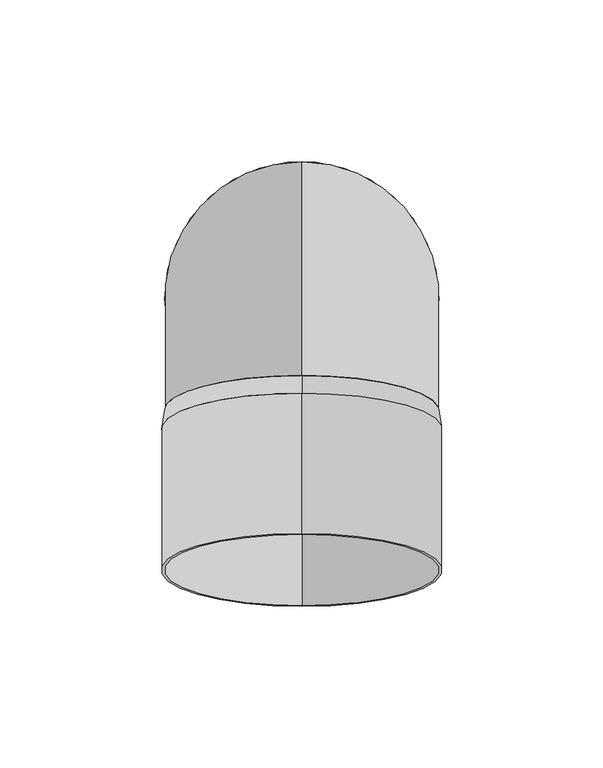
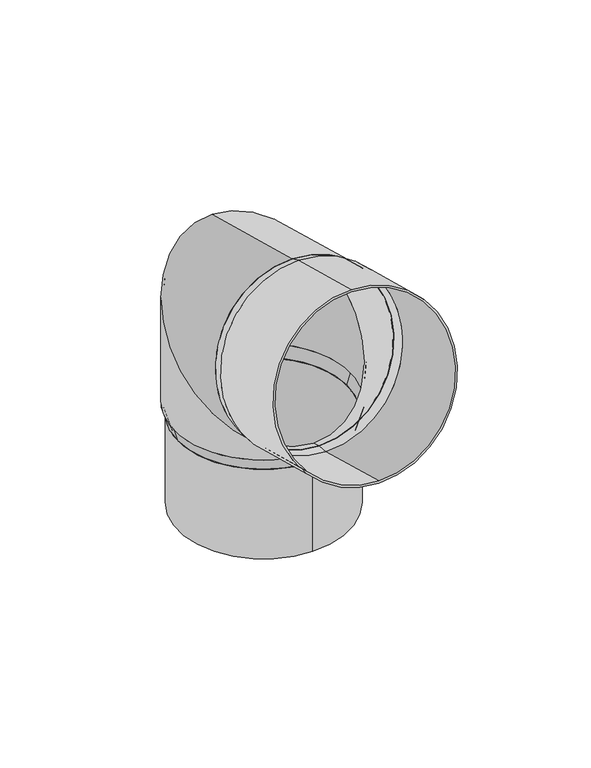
"""IFC4 building model written with IfcOpenShell, lengths in millimetres: proxy geometry, GROVIK_Downpipe_Knee : N85_75°_Up."""

from ifc_helpers import new_model, si_unit, point, frame, origin, origin_with_axes, origin_2d, place, context, project, spatial, polyline, circle_curve, ellipse_curve, trimmed, segment, composite_curve, outline, extrude, source, transform, mapped, element, save
from ifc_brep_helpers import plane_surface, cylinder_surface, revolved_surface, advanced_brep


def generic_models_094d9b74(model_context):
    return source(origin(), model_context, "Body", "SolidModel", [
        extrude(outline(composite_curve([segment(trimmed(circle_curve(origin_2d(), 40.7), [point((0.0, 40.7))], [point((0.0, -40.7))], False, "CARTESIAN"), True, "CONTINUOUS"), segment(trimmed(circle_curve(origin_2d(), 40.7), [point((0.0, -40.7))], [point((0.0, 40.7))], False, "CARTESIAN"), True, "CONTINUOUS")], self_intersect=False), holes=[composite_curve([segment(trimmed(circle_curve(origin_2d(), 39.7), [point((0.0, 39.7))], [point((0.0, -39.7))], True, "CARTESIAN"), True, "CONTINUOUS"), segment(trimmed(circle_curve(origin_2d(), 39.7), [point((0.0, -39.7))], [point((0.0, 39.7))], True, "CARTESIAN"), True, "CONTINUOUS")], self_intersect=False)]), frame((0.0, 0.0, -51.0), z_axis=(0.0, 0.0, 1.0), x_axis=(1.0, 0.0, 0.0)), (0.0, 0.0, 1.0), 45.0),
        advanced_brep(
        [(0.0, 42.5, 0.0), (0.0, -42.5, 0.0), (0.0, 41.5, 0.0), (0.0, -41.5, 0.0), (0.0, 41.5, 67.74407), (0.0, -41.5, 4.05593), (0.0, 42.5, 68.511397), (0.0, -42.5, 3.288603), (0.0, -23.6769277, 86.2434513), (0.0, -45.6765466, 4.1397561), (0.0, -23.9357468, 85.2775255), (0.0, -45.4177275, 5.1056819)],
        [
            (0, 1, circle_curve(frame((0.0, 0.0, 0.0), z_axis=(0.0, 0.0, -1.0), x_axis=(0.0, -1.0, 0.0)), 42.5)),
            (1, 0, circle_curve(frame((0.0, 0.0, 0.0), z_axis=(0.0, 0.0, -1.0), x_axis=(0.0, -1.0, 0.0)), 42.5)),
            (2, 3, circle_curve(frame((0.0, 0.0, 0.0), z_axis=(0.0, 0.0, 1.0), x_axis=(0.0, -1.0, 0.0)), 41.5)),
            (3, 2, circle_curve(frame((0.0, 0.0, 0.0), z_axis=(0.0, 0.0, 1.0), x_axis=(0.0, -1.0, 0.0)), 41.5)),
            (2, 4),
            (4, 5, ellipse_curve(frame((0.0, 0.0, 35.9), z_axis=(0.0, -0.6087614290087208, 0.7933533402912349), x_axis=(0.0, 0.7933533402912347, 0.608761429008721)), 52.3096052, 41.5)),
            (5, 3),
            (5, 4, ellipse_curve(frame((0.0, 0.0, 35.9), z_axis=(0.0, -0.6087614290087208, 0.7933533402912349), x_axis=(0.0, 0.7933533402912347, 0.608761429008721)), 52.3096052, 41.5)),
            (0, 6),
            (6, 7, ellipse_curve(frame((0.0, 0.0, 35.9), z_axis=(0.0, 0.6087614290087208, -0.7933533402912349), x_axis=(0.0, -0.7933533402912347, -0.608761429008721)), 53.5700776, 42.5)),
            (7, 1),
            (7, 6, ellipse_curve(frame((0.0, 0.0, 35.9), z_axis=(0.0, 0.6087614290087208, -0.7933533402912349), x_axis=(0.0, -0.7933533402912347, -0.608761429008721)), 53.5700776, 42.5)),
            (8, 9, circle_curve(frame((0.0, -34.6767372, 45.1916037), z_axis=(0.0, -0.9659258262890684, 0.2588190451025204), x_axis=(0.0, -0.2588190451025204, -0.9659258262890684)), 42.5)),
            (9, 8, circle_curve(frame((0.0, -34.6767372, 45.1916037), z_axis=(0.0, -0.9659258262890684, 0.2588190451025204), x_axis=(0.0, -0.2588190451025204, -0.9659258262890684)), 42.5)),
            (10, 11, circle_curve(frame((0.0, -34.6767372, 45.1916037), z_axis=(0.0, 0.9659258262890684, -0.2588190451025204), x_axis=(0.0, -0.2588190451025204, -0.9659258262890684)), 41.5)),
            (11, 10, circle_curve(frame((0.0, -34.6767372, 45.1916037), z_axis=(0.0, 0.9659258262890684, -0.2588190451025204), x_axis=(0.0, -0.2588190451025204, -0.9659258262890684)), 41.5)),
            (4, 10),
            (11, 5),
            (6, 8),
            (9, 7),
        ],
        [
            plane_surface(frame((0.0, 0.0, 0.0), z_axis=(0.0, 0.0, -1.0), x_axis=(1.0, 0.0, 0.0))),
            revolved_surface(polyline([(0.0, -41.5, 67.74407001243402), (0.0, -41.5, 0.0)]), (0.0, 0.0, 0.0), (0.0, 0.0, 1.0)),
            cylinder_surface(frame((0.0, 0.0, 0.0), z_axis=(0.0, 0.0, -1.0), x_axis=(0.0, -1.0, 0.0)), 42.5),
            plane_surface(frame((0.0, -34.6767372, 45.1916037), z_axis=(0.0, -0.9659258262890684, 0.2588190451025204), x_axis=(1.0, 0.0, 0.0))),
            revolved_surface(polyline([(0.0, -45.41772756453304, 5.105681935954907), (0.0, 20.018019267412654, -12.42777358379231)]), (0.0, 0.0, 35.9), (0.0, -0.9659258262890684, 0.2588190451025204)),
            cylinder_surface(frame((0.0, 0.0, 35.9), z_axis=(0.0, 0.9659258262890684, -0.2588190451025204), x_axis=(0.0, -0.2588190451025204, -0.9659258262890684)), 42.5),
        ],
        [
            (0, [[1, 2], [3, 4]]),
            (1, [[-3, 5, 6, 7]]),
            (1, [[-4, -7, 8, -5]]),
            (2, [[-1, 9, 10, 11]]),
            (2, [[-2, -11, 12, -9]]),
            (3, [[13, 14], [15, 16]]),
            (4, [[-6, 17, -16, 18]]),
            (4, [[-8, -18, -15, -17]]),
            (5, [[-10, 19, -14, 20]]),
            (5, [[-12, -20, -13, -19]]),
        ],
    ),
        advanced_brep(
        [(-40.7, 0.0, -6.0), (40.7, 0.0, -6.0), (-39.7, 0.0, -6.0), (39.7, 0.0, -6.0), (-42.5, 0.0, 0.0), (42.5, 0.0, 0.0), (41.5, 0.0, 0.0), (-41.5, 0.0, 0.0)],
        [
            (0, 1, circle_curve(frame((0.0, 0.0, -6.0), z_axis=(0.0, 0.0, -1.0), x_axis=(-1.0, 0.0, 0.0)), 40.7)),
            (1, 0, circle_curve(frame((0.0, 0.0, -6.0), z_axis=(0.0, 0.0, -1.0), x_axis=(1.0, 0.0, 0.0)), 40.7)),
            (2, 3, circle_curve(frame((0.0, 0.0, -6.0), z_axis=(0.0, 0.0, 1.0), x_axis=(1.0, 0.0, 0.0)), 39.7)),
            (3, 2, circle_curve(frame((0.0, 0.0, -6.0), z_axis=(0.0, 0.0, 1.0), x_axis=(-1.0, 0.0, 0.0)), 39.7)),
            (4, 5, circle_curve(origin_with_axes(), 42.5)),
            (5, 4, circle_curve(frame((0.0, 0.0, 0.0), z_axis=(0.0, 0.0, 1.0), x_axis=(-1.0, 0.0, 0.0)), 42.5)),
            (6, 7, circle_curve(frame((0.0, 0.0, 0.0), z_axis=(0.0, 0.0, -1.0), x_axis=(1.0, 0.0, 0.0)), 41.5)),
            (7, 6, circle_curve(frame((0.0, 0.0, 0.0), z_axis=(0.0, 0.0, -1.0), x_axis=(-1.0, 0.0, 0.0)), 41.5)),
            (1, 5),
            (4, 0),
            (6, 3),
            (2, 7),
        ],
        [
            plane_surface(frame((0.0, 0.0, -6.0), z_axis=(0.0, 0.0, -1.0), x_axis=(0.0, 1.0, 0.0))),
            plane_surface(frame((0.0, 0.0, 0.0), z_axis=(0.0, 0.0, 1.0), x_axis=(0.0, 1.0, 0.0))),
            revolved_surface(polyline([(40.70000000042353, 0.0, -6.0), (42.5, 0.0, 0.0)]), (0.0, 0.0, -141.6666667), (0.0, 0.0, 1.0)),
            revolved_surface(polyline([(-40.70000000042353, 0.0, -6.0), (-42.5, 0.0, 0.0)]), (0.0, 0.0, -141.6666667), (0.0, 0.0, 1.0)),
            revolved_surface(polyline([(41.5, 0.0, 0.0), (39.699999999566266, 0.0, -6.0)]), (0.0, 0.0, -138.3333333), (0.0, 0.0, 1.0)),
        ],
        [
            (0, [[1, 2], [3, 4]]),
            (1, [[5, 6], [7, 8]]),
            (2, [[-2, 9, -5, 10]]),
            (3, [[-1, -10, -6, -9]]),
            (4, [[11, -3, 12, -7]]),
            (4, [[-11, -8, -12, -4]]),
        ],
    ),
        extrude(outline(composite_curve([segment(trimmed(circle_curve(origin_2d(), 43.5), [point((0.0, -43.5000001))], [point((0.0, 43.4999999))], False, "CARTESIAN"), True, "CONTINUOUS"), segment(trimmed(circle_curve(origin_2d(), 43.5), [point((0.0, 43.4999999))], [point((0.0, -43.5000001))], False, "CARTESIAN"), True, "CONTINUOUS")], self_intersect=False), holes=[composite_curve([segment(trimmed(circle_curve(origin_2d(), 42.5), [point((0.0, -42.5))], [point((0.0, 42.5))], True, "CARTESIAN"), True, "CONTINUOUS"), segment(trimmed(circle_curve(origin_2d(), 42.5), [point((0.0, 42.5))], [point((0.0, -42.5))], True, "CARTESIAN"), True, "CONTINUOUS")], self_intersect=False)]), frame((0.0, -40.4722921, 46.744518), z_axis=(0.0, -0.9659258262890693, 0.25881904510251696), x_axis=(1.0, 0.0, 0.0)), (0.0, 0.0, 1.0), 45.0),
        advanced_brep(
        [(0.0, -45.6765466, 4.1397561), (0.0, -23.6769277, 86.2434513), (0.0, -23.9357468, 85.2775255), (0.0, -45.4177275, 5.1056819), (0.0, -51.7309206, 4.7267445), (0.0, -29.2136637, 88.7622914), (0.0, -51.4721015, 5.6926704), (0.0, -29.4724827, 87.7963656)],
        [
            (0, 1, circle_curve(frame((0.0, -34.6767372, 45.1916037), z_axis=(0.0, 0.9659258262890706, -0.25881904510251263), x_axis=(0.0, -0.25881904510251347, -0.9659258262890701)), 42.5)),
            (1, 0, circle_curve(frame((0.0, -34.6767372, 45.1916037), z_axis=(0.0, 0.9659258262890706, -0.25881904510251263), x_axis=(0.0, 0.25881904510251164, 0.9659258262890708)), 42.5)),
            (2, 3, circle_curve(frame((0.0, -34.6767372, 45.1916037), z_axis=(0.0, -0.9659258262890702, 0.25881904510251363), x_axis=(0.0, -0.25881904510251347, -0.9659258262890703)), 41.5)),
            (3, 2, circle_curve(frame((0.0, -34.6767372, 45.1916037), z_axis=(0.0, -0.9659258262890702, 0.25881904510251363), x_axis=(0.0, 0.2588190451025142, 0.9659258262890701)), 41.5)),
            (4, 5, circle_curve(frame((0.0, -40.4722921, 46.744518), z_axis=(0.0, -0.9659258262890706, 0.25881904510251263), x_axis=(0.0, 0.25881904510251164, 0.9659258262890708)), 43.5)),
            (5, 4, circle_curve(frame((0.0, -40.4722921, 46.744518), z_axis=(0.0, -0.9659258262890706, 0.25881904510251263), x_axis=(0.0, -0.25881904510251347, -0.9659258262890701)), 43.5)),
            (6, 7, circle_curve(frame((0.0, -40.4722921, 46.744518), z_axis=(0.0, 0.9659258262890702, -0.25881904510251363), x_axis=(0.0, -0.25881904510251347, -0.9659258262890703)), 42.5)),
            (7, 6, circle_curve(frame((0.0, -40.4722921, 46.744518), z_axis=(0.0, 0.9659258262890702, -0.25881904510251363), x_axis=(0.0, 0.2588190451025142, 0.9659258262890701)), 42.5)),
            (0, 4),
            (5, 1),
            (6, 3),
            (2, 7),
        ],
        [
            plane_surface(frame((0.0, -34.6767372, 45.1916037), z_axis=(0.0, 0.9659258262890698, -0.2588190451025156), x_axis=(-1.0, 0.0, 0.0))),
            plane_surface(frame((0.0, -40.4722921, 46.744518), z_axis=(0.0, -0.9659258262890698, 0.2588190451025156), x_axis=(-1.0, 0.0, 0.0))),
            revolved_surface(polyline([(0.0, -45.67654653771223, 4.139756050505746), (0.0, -51.73092062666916, 4.72674450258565)]), (0.0, 211.6343485, -20.8072528), (0.0, -0.9659258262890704, 0.2588190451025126)),
            revolved_surface(polyline([(0.0, -23.676927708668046, 86.24345126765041), (0.0, -29.213663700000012, 88.7622914)]), (0.0, 211.6343485, -20.8072528), (0.0, -0.9659258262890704, 0.2588190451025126)),
            revolved_surface(polyline([(0.0, -51.4721015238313, 5.692670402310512), (0.0, -45.41772748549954, 5.105681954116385)]), (0.0, 205.8387936, -19.2543385), (0.0, -0.9659258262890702, 0.25881904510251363)),
        ],
        [
            (0, [[1, 2], [3, 4]]),
            (1, [[5, 6], [7, 8]]),
            (2, [[-1, 9, -6, 10]]),
            (3, [[-2, -10, -5, -9]]),
            (4, [[11, -3, 12, -7]]),
            (4, [[-11, -8, -12, -4]]),
        ],
    ),
    ])


if __name__ == "__main__":
    model = new_model("IFC4")
    model_context = context("Model", 3, world=origin())
    ifc_project = project(units=[si_unit("LENGTHUNIT", "METRE", prefix="MILLI")], contexts=[model_context])
    site = spatial("IfcSite", under=ifc_project)
    building = spatial("IfcBuilding", under=site)
    placement = place(None, origin())
    generic_models_shape = generic_models_094d9b74(model_context)
    element("IfcBuildingElementProxy", 1, Name="GROVIK_Downpipe_Knee : N85_75°_Up", ObjectType="GROVIK_Downpipe_Knee : N85_75°_Up", at=placement, inside=building, context=model_context, shape_type="MappedRepresentation", body=[
        mapped(generic_models_shape, transform((0.0, 0.0, 0.0), x_axis=(1.0, 0.0, 0.0), y_axis=(0.0, 1.0, 0.0), z_axis=(0.0, 0.0, 1.0))),
    ])
    save(model, "model.ifc")
